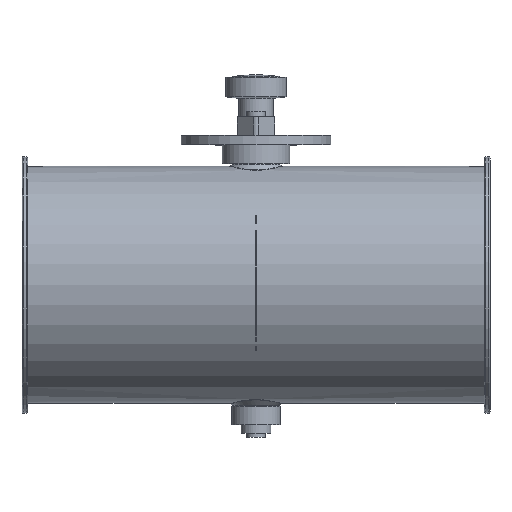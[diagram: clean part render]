
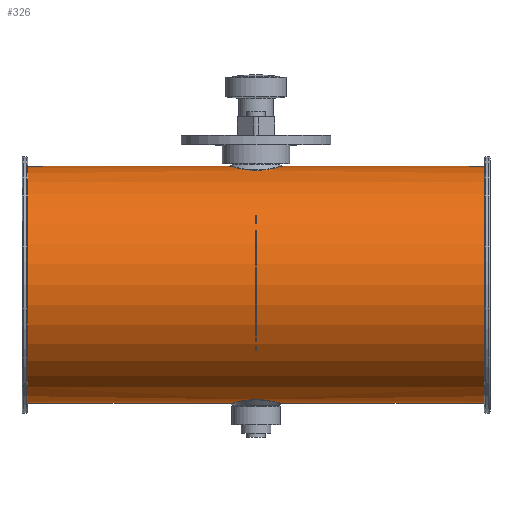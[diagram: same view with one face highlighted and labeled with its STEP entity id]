
A CAD part, top view. The second image highlights one B-rep face of the part: STEP entity #326.
In plain terms, the highlighted cylindrical face has radius 63.3 mm (diameter 126.6 mm), a full revolution.
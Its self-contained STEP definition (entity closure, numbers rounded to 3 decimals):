
#115=B_SPLINE_CURVE_WITH_KNOTS('',3,(#2116,#2117,#2118,#2119,#2120,#2121,
#2122,#2123,#2124,#2125,#2126,#2127,#2128,#2129,#2130,#2131,#2132,#2133,
#2134,#2135,#2136,#2137),.UNSPECIFIED.,.T.,.F.,(2,2,2,2,2,2,2,2,2,2,2,2,
2),(-0.063,0.,0.125,0.25,0.375,0.438,0.5,0.625,0.75,0.875,
0.938,1.,1.125),.UNSPECIFIED.);
#116=B_SPLINE_CURVE_WITH_KNOTS('',3,(#2139,#2140,#2141,#2142,#2143,#2144,
#2145,#2146,#2147,#2148,#2149,#2150,#2151,#2152,#2153,#2154,#2155,#2156,
#2157,#2158,#2159,#2160,#2161,#2162,#2163,#2164),.UNSPECIFIED.,.T.,.F.,(2,
2,2,2,2,2,2,2,2,2,2,2,2,2,2),(-0.063,0.,0.063,0.125,0.25,0.375,
0.5,0.562,0.625,0.687,
0.75,0.875,0.938,1.,1.063),.UNSPECIFIED.);
#270=CYLINDRICAL_SURFACE('',#1461,63.3);
#326=ADVANCED_FACE('',(#497,#498,#499,#500),#270,.T.);
#497=FACE_BOUND('',#675,.T.);
#498=FACE_BOUND('',#676,.T.);
#499=FACE_BOUND('',#677,.T.);
#500=FACE_BOUND('',#678,.T.);
#675=EDGE_LOOP('',(#911));
#676=EDGE_LOOP('',(#912));
#677=EDGE_LOOP('',(#913));
#678=EDGE_LOOP('',(#914));
#911=ORIENTED_EDGE('',*,*,#1231,.T.);
#912=ORIENTED_EDGE('',*,*,#1232,.T.);
#913=ORIENTED_EDGE('',*,*,#1233,.T.);
#914=ORIENTED_EDGE('',*,*,#1234,.F.);
#1105=VERTEX_POINT('',#2115);
#1106=VERTEX_POINT('',#2138);
#1107=VERTEX_POINT('',#2165);
#1108=VERTEX_POINT('',#2167);
#1231=EDGE_CURVE('',#1105,#1105,#1337,.T.);
#1232=EDGE_CURVE('',#1106,#1106,#115,.T.);
#1233=EDGE_CURVE('',#1107,#1107,#116,.T.);
#1234=EDGE_CURVE('',#1108,#1108,#1338,.T.);
#1337=CIRCLE('',#1459,63.3);
#1338=CIRCLE('',#1460,63.3);
#1459=AXIS2_PLACEMENT_3D('',#2114,#1738,#1739);
#1460=AXIS2_PLACEMENT_3D('',#2166,#1740,#1741);
#1461=AXIS2_PLACEMENT_3D('',#2168,#1742,#1743);
#1738=DIRECTION('',(1.,0.,0.));
#1739=DIRECTION('',(0.,0.,1.));
#1740=DIRECTION('',(1.,0.,0.));
#1741=DIRECTION('',(0.,0.,1.));
#1742=DIRECTION('',(1.,0.,0.));
#1743=DIRECTION('',(0.,0.,-1.));
#2114=CARTESIAN_POINT('',(-122.,-20.8,125.));
#2115=CARTESIAN_POINT('',(-122.,-20.8,188.3));
#2116=CARTESIAN_POINT('',(-1.423,-82.012,108.867));
#2117=CARTESIAN_POINT('',(-7.199,-82.427,110.501));
#2118=CARTESIAN_POINT('',(-10.326,-83.122,113.378));
#2119=CARTESIAN_POINT('',(-13.997,-84.024,120.327));
#2120=CARTESIAN_POINT('',(-14.59,-84.217,124.512));
#2121=CARTESIAN_POINT('',(-13.084,-83.803,132.248));
#2122=CARTESIAN_POINT('',(-10.977,-83.202,135.898));
#2123=CARTESIAN_POINT('',(-6.335,-82.435,139.474));
#2124=CARTESIAN_POINT('',(-4.513,-82.208,140.366));
#2125=CARTESIAN_POINT('',(-0.609,-81.993,141.202));
#2126=CARTESIAN_POINT('',(1.444,-82.014,141.127));
#2127=CARTESIAN_POINT('',(7.139,-82.423,139.518));
#2128=CARTESIAN_POINT('',(10.293,-83.115,136.669));
#2129=CARTESIAN_POINT('',(14.002,-84.025,129.678));
#2130=CARTESIAN_POINT('',(14.599,-84.219,125.558));
#2131=CARTESIAN_POINT('',(13.082,-83.802,117.719));
#2132=CARTESIAN_POINT('',(11.036,-83.212,114.149));
#2133=CARTESIAN_POINT('',(6.313,-82.431,110.508));
#2134=CARTESIAN_POINT('',(4.491,-82.207,109.629));
#2135=CARTESIAN_POINT('',(0.628,-81.994,108.802));
#2136=CARTESIAN_POINT('',(-1.423,-82.012,108.867));
#2137=CARTESIAN_POINT('',(-7.199,-82.427,110.501));
#2138=CARTESIAN_POINT('',(-3.348,-82.151,109.411));
#2139=CARTESIAN_POINT('',(-5.274,40.689,109.956));
#2140=CARTESIAN_POINT('',(-1.423,40.412,108.867));
#2141=CARTESIAN_POINT('',(0.619,40.394,108.801));
#2142=CARTESIAN_POINT('',(4.488,40.606,109.627));
#2143=CARTESIAN_POINT('',(6.322,40.833,110.515));
#2144=CARTESIAN_POINT('',(11.011,41.608,114.129));
#2145=CARTESIAN_POINT('',(13.094,42.206,117.776));
#2146=CARTESIAN_POINT('',(14.59,42.616,125.515));
#2147=CARTESIAN_POINT('',(13.988,42.422,129.697));
#2148=CARTESIAN_POINT('',(10.322,41.522,136.623));
#2149=CARTESIAN_POINT('',(7.209,40.831,139.486));
#2150=CARTESIAN_POINT('',(1.465,40.414,141.127));
#2151=CARTESIAN_POINT('',(-0.582,40.393,141.203));
#2152=CARTESIAN_POINT('',(-4.487,40.606,140.376));
#2153=CARTESIAN_POINT('',(-6.307,40.831,139.492));
#2154=CARTESIAN_POINT('',(-9.427,41.346,137.096));
#2155=CARTESIAN_POINT('',(-10.739,41.633,135.582));
#2156=CARTESIAN_POINT('',(-12.76,42.115,132.183));
#2157=CARTESIAN_POINT('',(-13.461,42.306,130.322));
#2158=CARTESIAN_POINT('',(-14.599,42.619,124.445));
#2159=CARTESIAN_POINT('',(-14.013,42.428,120.348));
#2160=CARTESIAN_POINT('',(-11.222,41.743,115.079));
#2161=CARTESIAN_POINT('',(-10.019,41.467,113.533));
#2162=CARTESIAN_POINT('',(-7.018,40.933,110.941));
#2163=CARTESIAN_POINT('',(-5.274,40.689,109.956));
#2164=CARTESIAN_POINT('',(-1.423,40.412,108.867));
#2165=CARTESIAN_POINT('',(-3.348,40.551,109.411));
#2166=CARTESIAN_POINT('',(122.,-20.8,125.));
#2167=CARTESIAN_POINT('',(122.,-20.8,188.3));
#2168=CARTESIAN_POINT('',(-125.,-20.8,125.));
